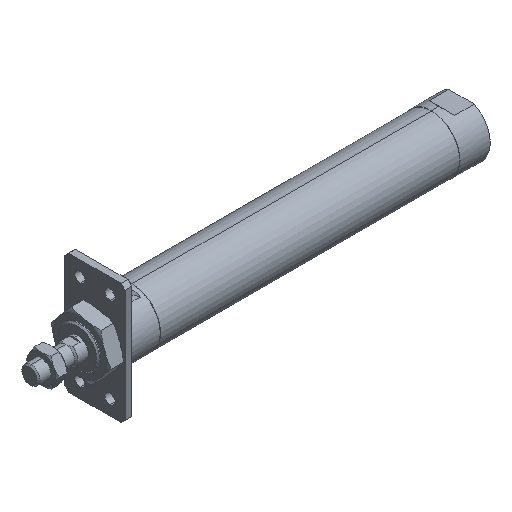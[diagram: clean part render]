
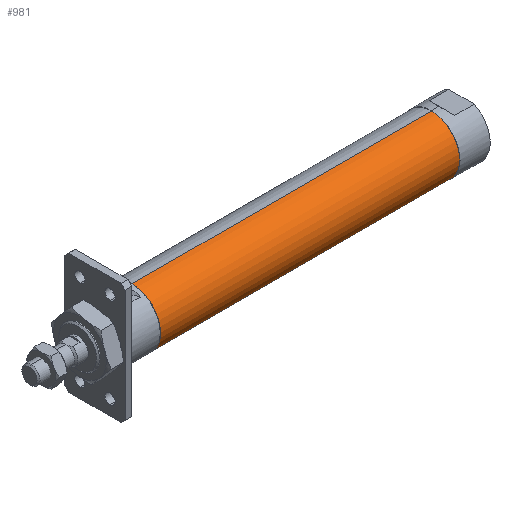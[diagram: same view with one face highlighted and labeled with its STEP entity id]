
A CAD part, isometric view. The second image highlights one B-rep face of the part: STEP entity #981.
In plain terms, the highlighted cylindrical face has radius 18.8 mm (diameter 37.6 mm), a partial arc.
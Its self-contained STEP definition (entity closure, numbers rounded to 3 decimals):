
#236 = CARTESIAN_POINT ( 'NONE',  ( -1.784, 0., -18.8 ) ) ;
#268 = CARTESIAN_POINT ( 'NONE',  ( 267., 0., 18.8 ) ) ;
#360 = CIRCLE ( 'NONE', #3259, 18.8 ) ;
#661 = VERTEX_POINT ( 'NONE', #942 ) ;
#817 = CARTESIAN_POINT ( 'NONE',  ( -1.784, 0., 18.8 ) ) ;
#822 = CARTESIAN_POINT ( 'NONE',  ( 68., 0., -18.8 ) ) ;
#942 = CARTESIAN_POINT ( 'NONE',  ( 267., 0., -18.8 ) ) ;
#961 = LINE ( 'NONE', #817, #1652 ) ;
#981 = ADVANCED_FACE ( 'NONE', ( #3193 ), #1205, .T. ) ;
#1205 = CYLINDRICAL_SURFACE ( 'NONE', #1426, 18.8 ) ;
#1296 = CARTESIAN_POINT ( 'NONE',  ( 68., 0., 0. ) ) ;
#1320 = DIRECTION ( 'NONE',  ( -1., 0., 0. ) ) ;
#1426 = AXIS2_PLACEMENT_3D ( 'NONE', #2648, #2990, #2977 ) ;
#1545 = DIRECTION ( 'NONE',  ( -1., 0., 0. ) ) ;
#1644 = DIRECTION ( 'NONE',  ( 0., 0., 1. ) ) ;
#1652 = VECTOR ( 'NONE', #4064, 1000. ) ;
#1694 = VECTOR ( 'NONE', #2106, 1000. ) ;
#1943 = ORIENTED_EDGE ( 'NONE', *, *, #3970, .F. ) ;
#1971 = VERTEX_POINT ( 'NONE', #268 ) ;
#2106 = DIRECTION ( 'NONE',  ( -1., 0., 0. ) ) ;
#2203 = DIRECTION ( 'NONE',  ( 0., 0., 1. ) ) ;
#2340 = CIRCLE ( 'NONE', #3901, 18.8 ) ;
#2422 = EDGE_CURVE ( 'NONE', #1971, #3921, #961, .T. ) ;
#2577 = EDGE_CURVE ( 'NONE', #661, #1971, #360, .T. ) ;
#2648 = CARTESIAN_POINT ( 'NONE',  ( -1.784, 0., 0. ) ) ;
#2678 = ORIENTED_EDGE ( 'NONE', *, *, #2577, .T. ) ;
#2876 = CARTESIAN_POINT ( 'NONE',  ( 68., 0., 18.8 ) ) ;
#2977 = DIRECTION ( 'NONE',  ( 0., 0., 1. ) ) ;
#2982 = LINE ( 'NONE', #236, #1694 ) ;
#2990 = DIRECTION ( 'NONE',  ( -1., 0., 0. ) ) ;
#3193 = FACE_OUTER_BOUND ( 'NONE', #3914, .T. ) ;
#3259 = AXIS2_PLACEMENT_3D ( 'NONE', #4102, #1545, #2203 ) ;
#3364 = VERTEX_POINT ( 'NONE', #822 ) ;
#3689 = EDGE_CURVE ( 'NONE', #661, #3364, #2982, .T. ) ;
#3738 = ORIENTED_EDGE ( 'NONE', *, *, #3689, .F. ) ;
#3820 = ORIENTED_EDGE ( 'NONE', *, *, #2422, .T. ) ;
#3901 = AXIS2_PLACEMENT_3D ( 'NONE', #1296, #1320, #1644 ) ;
#3914 = EDGE_LOOP ( 'NONE', ( #3738, #2678, #3820, #1943 ) ) ;
#3921 = VERTEX_POINT ( 'NONE', #2876 ) ;
#3970 = EDGE_CURVE ( 'NONE', #3364, #3921, #2340, .T. ) ;
#4064 = DIRECTION ( 'NONE',  ( -1., 0., 0. ) ) ;
#4102 = CARTESIAN_POINT ( 'NONE',  ( 267., 0., 0. ) ) ;
